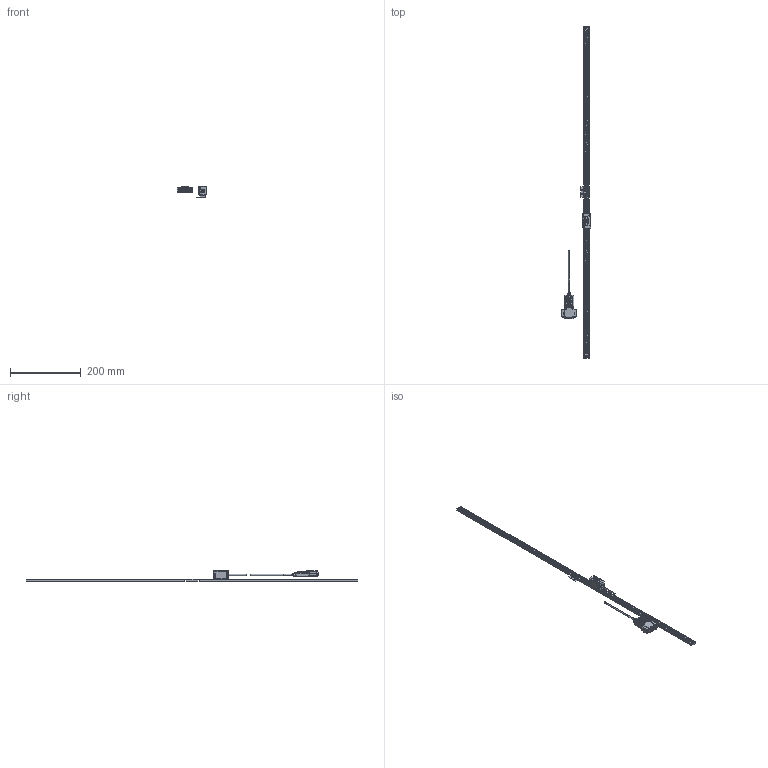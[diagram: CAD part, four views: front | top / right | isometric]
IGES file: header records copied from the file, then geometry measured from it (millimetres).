
Start section: Elysium IGES Interface
Global section: file name: 91HK:\20_商品設計\設計１課\個人\山室\05_作業中雑務\20220810_ST1300 3D HP掲載\ST1300-900F_G.igs; native system: Creo Elements/Direct Modeling 18.1I  13-Aug-2016; preprocessor: Creo Element/Direct IGES_3D V2.2; author: Unknown; organization: Unknown; date: 20220816.101816; units: millimetre
Bounding box: 83 x 940 x 30.1 mm (x, y, z)
Volume: 96876.9 mm3; surface area: 61294.6 mm2
Topology: 3 solids, 6 shells, 3462 faces, 9540 edges, 6226 vertices
Faces by surface type: bspline 3462
